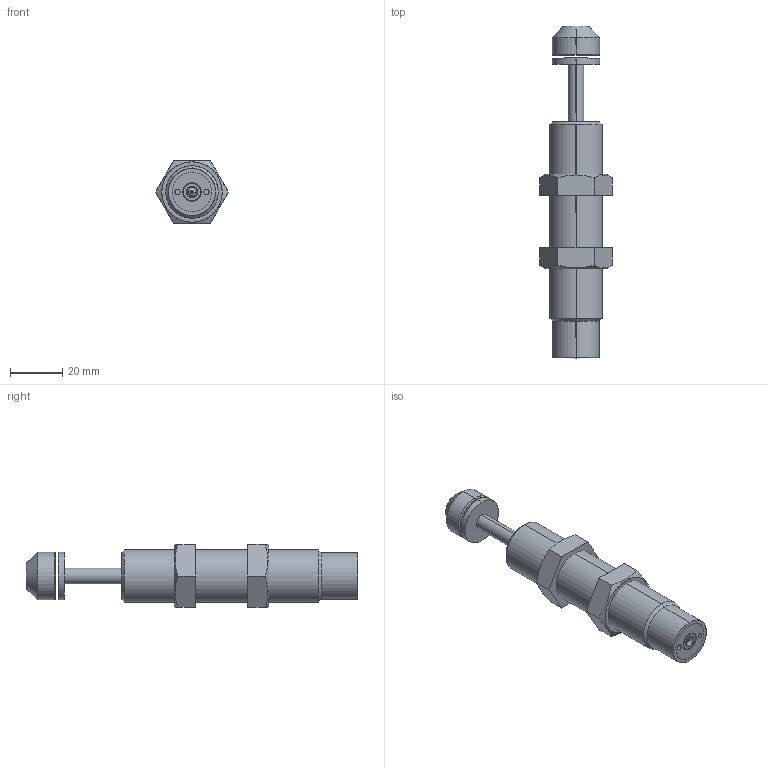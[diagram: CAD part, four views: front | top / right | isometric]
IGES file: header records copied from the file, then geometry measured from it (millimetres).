
Start section: SolidWorks IGES file using analytic representation for surfaces
Bounding box: 27.71 x 126.5 x 24 mm (x, y, z)
Surface area: 10810.4 mm2 (no closed solid volume)
Topology: 0 solids, 0 shells, 89 faces, 1462 edges, 1462 vertices
Faces by surface type: revolution 50, bspline 39
